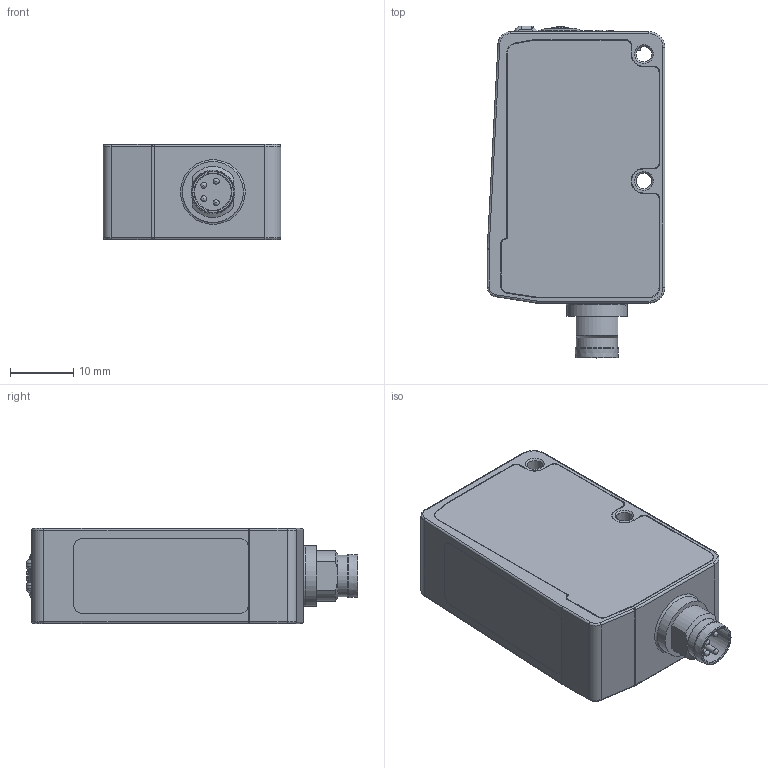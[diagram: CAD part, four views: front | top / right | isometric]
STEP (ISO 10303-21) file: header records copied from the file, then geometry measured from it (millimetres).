
FILE_DESCRIPTION(/* description */ (''),/* implementation_level */ '2;1');
FILE_NAME(/* name */ 'DSD-0441.stp',/* time_stamp */ '2020-09-22T15:39:41+02:00',/* author */ (''),/* organization */ (''),/* preprocessor_version */ 'ST-DEVELOPER v16.7',/* originating_system */ 'SIEMENS PLM Software NX 12.0',/* authorisation */ '');
FILE_SCHEMA (('AUTOMOTIVE_DESIGN { 1 0 10303 214 3 1 1 1 }'));
Length unit declared in the file: millimetre
Products named in the file (1): MBra1EA089BB27k2
Bounding box: 28 x 52.35 x 15 mm (x, y, z)
Volume: 17256.8 mm3; surface area: 5826.1 mm2
Topology: 1 solids, 5 shells, 281 faces, 680 edges, 426 vertices
Faces by surface type: plane 106, cylinder 104, bspline 27, torus 24, cone 12, sphere 6, extrusion 2
Full cylindrical faces by diameter (mm): 0.8 x1, 0.95 x4, 1.4 x2, 2.45 x2, 2.85 x1, 2.95 x1, 3.85 x1, 5.77 x1, 6.52 x1, 6.9 x1, 9.6 x1
Entity records: 9378 total; most frequent: CARTESIAN_POINT 2318, DIRECTION 1347, ORIENTED_EDGE 1230, EDGE_CURVE 615, AXIS2_PLACEMENT_3D 536, VERTEX_POINT 409, EDGE_LOOP 352, ADVANCED_FACE 281
